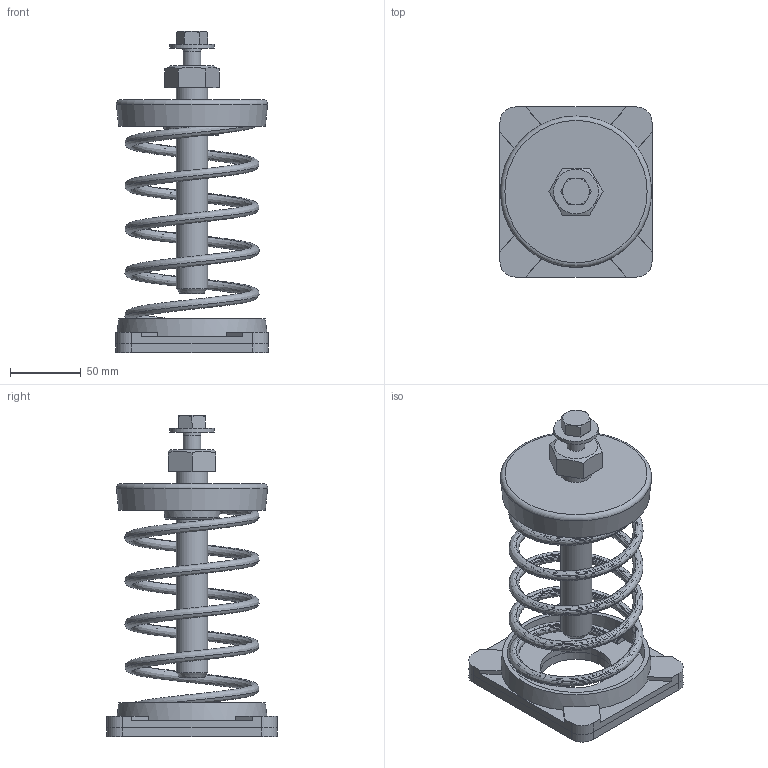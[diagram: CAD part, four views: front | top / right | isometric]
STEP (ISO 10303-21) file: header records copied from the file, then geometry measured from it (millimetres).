
FILE_DESCRIPTION(/* description */ (''),/* implementation_level */ '2;1');
FILE_NAME(/* name */ 'C:\001_Work\Designs\SLF ASSEMBLIES\SLF-126.stp',/* time_stamp */ '2016-01-10T15:04:51-05:00',/* author */ ('rramoutar'),/* organization */ ('Mason Industries Inc.'),/* preprocessor_version */ 'ST-DEVELOPER v15.6',/* originating_system */ 'Autodesk Inventor 2015',/* authorisation */ '');
FILE_SCHEMA (('CONFIG_CONTROL_DESIGN'));
Length unit declared in the file: inch
Products named in the file (1): SLF-126
Bounding box: 107.95 x 120.65 x 227.69 mm (x, y, z)
Volume: 327059.8 mm3; surface area: 166706.9 mm2
Topology: 7 solids, 7 shells, 232 faces, 587 edges, 388 vertices
Faces by surface type: plane 156, bspline 30, cylinder 29, cone 14, torus 3
Full cylindrical faces by diameter (mm): 9.525 x8, 12.7 x2, 13.487 x1, 19.05 x1, 22.225 x2, 31.75 x1, 50.8 x2, 97.631 x2
Entity records: 15224 total; most frequent: CARTESIAN_POINT 9714, ORIENTED_EDGE 1088, DIRECTION 951, EDGE_CURVE 544, VERTEX_POINT 375, LINE 363, VECTOR 363, EDGE_LOOP 299
